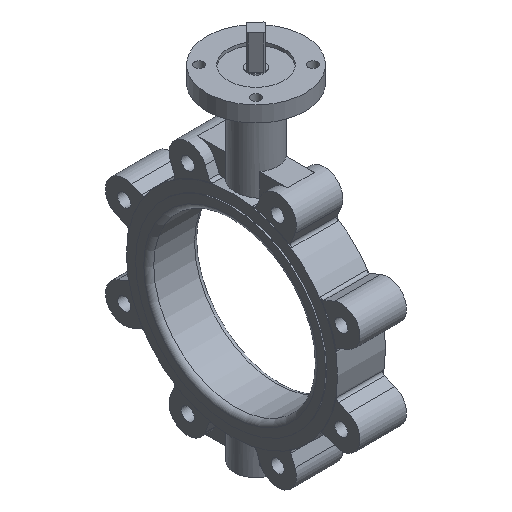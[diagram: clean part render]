
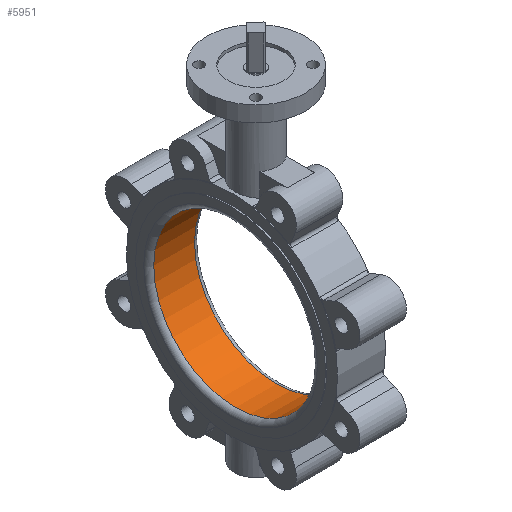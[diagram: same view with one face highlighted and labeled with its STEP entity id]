
A CAD part, isometric view. The second image highlights one B-rep face of the part: STEP entity #5951.
In plain terms, the highlighted cylindrical face has radius 4.097 mm (diameter 8.194 mm), a full revolution.
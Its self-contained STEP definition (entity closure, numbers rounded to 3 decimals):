
#5840 = EDGE_CURVE('',#5841,#5843,#5845,.T.);
#5841 = VERTEX_POINT('',#5842);
#5842 = CARTESIAN_POINT('',(28.326,-4.097,464.137));
#5843 = VERTEX_POINT('',#5844);
#5844 = CARTESIAN_POINT('',(28.326,4.097,464.137));
#5845 = SURFACE_CURVE('',#5846,(#5851,#5863),.PCURVE_S1.);
#5846 = CIRCLE('',#5847,4.097);
#5847 = AXIS2_PLACEMENT_3D('',#5848,#5849,#5850);
#5848 = CARTESIAN_POINT('',(28.326,0.,464.137));
#5849 = DIRECTION('',(-1.,0.,0.));
#5850 = DIRECTION('',(0.,1.,0.));
#5851 = PCURVE('',#5852,#5857);
#5852 = TOROIDAL_SURFACE('',#5853,4.347,0.25);
#5853 = AXIS2_PLACEMENT_3D('',#5854,#5855,#5856);
#5854 = CARTESIAN_POINT('',(28.326,0.,464.137));
#5855 = DIRECTION('',(-1.,0.,0.));
#5856 = DIRECTION('',(0.,1.,0.));
#5857 = DEFINITIONAL_REPRESENTATION('',(#5858),#5862);
#5858 = LINE('',#5859,#5860);
#5859 = CARTESIAN_POINT('',(0.,3.142));
#5860 = VECTOR('',#5861,1.);
#5861 = DIRECTION('',(1.,0.));
#5862 = ( GEOMETRIC_REPRESENTATION_CONTEXT(2) 
PARAMETRIC_REPRESENTATION_CONTEXT() REPRESENTATION_CONTEXT('2D SPACE',''
  ) );
#5863 = PCURVE('',#5864,#5869);
#5864 = CYLINDRICAL_SURFACE('',#5865,4.097);
#5865 = AXIS2_PLACEMENT_3D('',#5866,#5867,#5868);
#5866 = CARTESIAN_POINT('',(26.034,0.,464.137));
#5867 = DIRECTION('',(1.,0.,0.));
#5868 = DIRECTION('',(-0.,1.,0.));
#5869 = DEFINITIONAL_REPRESENTATION('',(#5870),#5874);
#5870 = LINE('',#5871,#5872);
#5871 = CARTESIAN_POINT('',(6.283,2.292));
#5872 = VECTOR('',#5873,1.);
#5873 = DIRECTION('',(-1.,0.));
#5874 = ( GEOMETRIC_REPRESENTATION_CONTEXT(2) 
PARAMETRIC_REPRESENTATION_CONTEXT() REPRESENTATION_CONTEXT('2D SPACE',''
  ) );
#5876 = EDGE_CURVE('',#5843,#5841,#5877,.T.);
#5877 = SURFACE_CURVE('',#5878,(#5883,#5890),.PCURVE_S1.);
#5878 = CIRCLE('',#5879,4.097);
#5879 = AXIS2_PLACEMENT_3D('',#5880,#5881,#5882);
#5880 = CARTESIAN_POINT('',(28.326,0.,464.137));
#5881 = DIRECTION('',(-1.,0.,0.));
#5882 = DIRECTION('',(0.,1.,0.));
#5883 = PCURVE('',#5852,#5884);
#5884 = DEFINITIONAL_REPRESENTATION('',(#5885),#5889);
#5885 = LINE('',#5886,#5887);
#5886 = CARTESIAN_POINT('',(6.283,3.142));
#5887 = VECTOR('',#5888,1.);
#5888 = DIRECTION('',(1.,0.));
#5889 = ( GEOMETRIC_REPRESENTATION_CONTEXT(2) 
PARAMETRIC_REPRESENTATION_CONTEXT() REPRESENTATION_CONTEXT('2D SPACE',''
  ) );
#5890 = PCURVE('',#5864,#5891);
#5891 = DEFINITIONAL_REPRESENTATION('',(#5892),#5896);
#5892 = LINE('',#5893,#5894);
#5893 = CARTESIAN_POINT('',(6.283,2.292));
#5894 = VECTOR('',#5895,1.);
#5895 = DIRECTION('',(-1.,0.));
#5896 = ( GEOMETRIC_REPRESENTATION_CONTEXT(2) 
PARAMETRIC_REPRESENTATION_CONTEXT() REPRESENTATION_CONTEXT('2D SPACE',''
  ) );
#5951 = ADVANCED_FACE('',(#5952),#5864,.F.);
#5952 = FACE_BOUND('',#5953,.F.);
#5953 = EDGE_LOOP('',(#5954,#5955,#5956,#5978,#6005));
#5954 = ORIENTED_EDGE('',*,*,#5876,.T.);
#5955 = ORIENTED_EDGE('',*,*,#5840,.T.);
#5956 = ORIENTED_EDGE('',*,*,#5957,.F.);
#5957 = EDGE_CURVE('',#5958,#5843,#5960,.T.);
#5958 = VERTEX_POINT('',#5959);
#5959 = CARTESIAN_POINT('',(26.284,4.097,464.137));
#5960 = SEAM_CURVE('',#5961,(#5964,#5971),.PCURVE_S1.);
#5961 = B_SPLINE_CURVE_WITH_KNOTS('',1,(#5962,#5963),.UNSPECIFIED.,.F.,
  .F.,(2,2),(0.25,2.292),.PIECEWISE_BEZIER_KNOTS.);
#5962 = CARTESIAN_POINT('',(26.284,4.097,464.137));
#5963 = CARTESIAN_POINT('',(28.326,4.097,464.137));
#5964 = PCURVE('',#5864,#5965);
#5965 = DEFINITIONAL_REPRESENTATION('',(#5966),#5970);
#5966 = LINE('',#5967,#5968);
#5967 = CARTESIAN_POINT('',(0.,0.));
#5968 = VECTOR('',#5969,1.);
#5969 = DIRECTION('',(0.,1.));
#5970 = ( GEOMETRIC_REPRESENTATION_CONTEXT(2) 
PARAMETRIC_REPRESENTATION_CONTEXT() REPRESENTATION_CONTEXT('2D SPACE',''
  ) );
#5971 = PCURVE('',#5864,#5972);
#5972 = DEFINITIONAL_REPRESENTATION('',(#5973),#5977);
#5973 = LINE('',#5974,#5975);
#5974 = CARTESIAN_POINT('',(6.283,0.));
#5975 = VECTOR('',#5976,1.);
#5976 = DIRECTION('',(0.,1.));
#5977 = ( GEOMETRIC_REPRESENTATION_CONTEXT(2) 
PARAMETRIC_REPRESENTATION_CONTEXT() REPRESENTATION_CONTEXT('2D SPACE',''
  ) );
#5978 = ORIENTED_EDGE('',*,*,#5979,.T.);
#5979 = EDGE_CURVE('',#5958,#5958,#5980,.T.);
#5980 = SURFACE_CURVE('',#5981,(#5986,#5993),.PCURVE_S1.);
#5981 = CIRCLE('',#5982,4.097);
#5982 = AXIS2_PLACEMENT_3D('',#5983,#5984,#5985);
#5983 = CARTESIAN_POINT('',(26.284,0.,464.137));
#5984 = DIRECTION('',(1.,0.,0.));
#5985 = DIRECTION('',(0.,-1.,0.));
#5986 = PCURVE('',#5864,#5987);
#5987 = DEFINITIONAL_REPRESENTATION('',(#5988),#5992);
#5988 = LINE('',#5989,#5990);
#5989 = CARTESIAN_POINT('',(-3.142,0.25));
#5990 = VECTOR('',#5991,1.);
#5991 = DIRECTION('',(1.,0.));
#5992 = ( GEOMETRIC_REPRESENTATION_CONTEXT(2) 
PARAMETRIC_REPRESENTATION_CONTEXT() REPRESENTATION_CONTEXT('2D SPACE',''
  ) );
#5993 = PCURVE('',#5994,#5999);
#5994 = TOROIDAL_SURFACE('',#5995,4.347,0.25);
#5995 = AXIS2_PLACEMENT_3D('',#5996,#5997,#5998);
#5996 = CARTESIAN_POINT('',(26.284,0.,464.137));
#5997 = DIRECTION('',(1.,0.,0.));
#5998 = DIRECTION('',(0.,-1.,0.));
#5999 = DEFINITIONAL_REPRESENTATION('',(#6000),#6004);
#6000 = LINE('',#6001,#6002);
#6001 = CARTESIAN_POINT('',(0.,3.142));
#6002 = VECTOR('',#6003,1.);
#6003 = DIRECTION('',(1.,0.));
#6004 = ( GEOMETRIC_REPRESENTATION_CONTEXT(2) 
PARAMETRIC_REPRESENTATION_CONTEXT() REPRESENTATION_CONTEXT('2D SPACE',''
  ) );
#6005 = ORIENTED_EDGE('',*,*,#5957,.T.);
